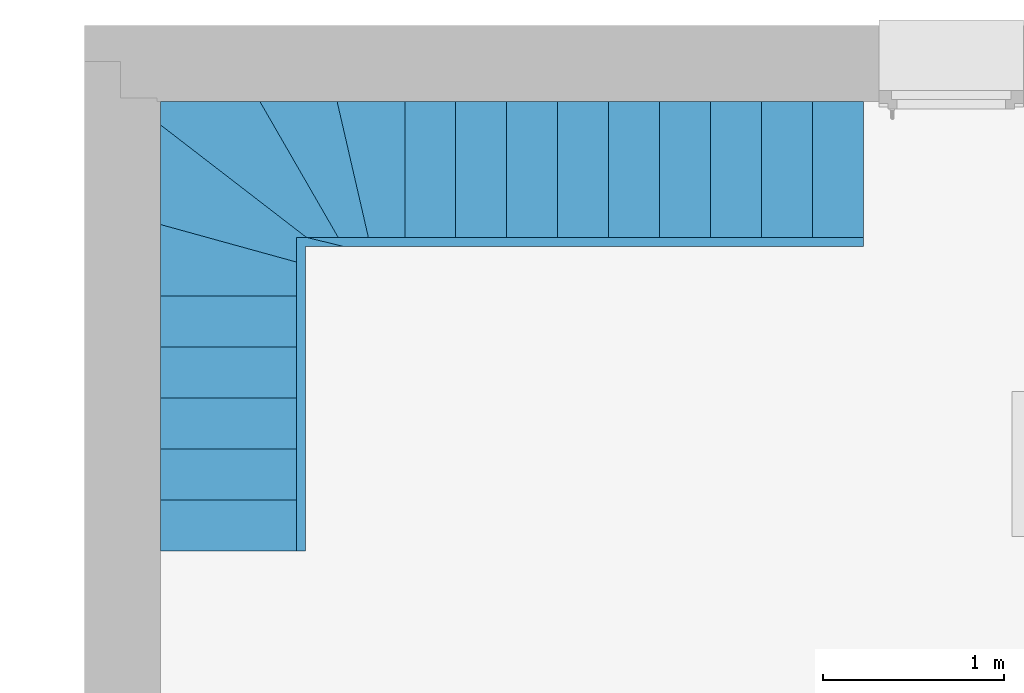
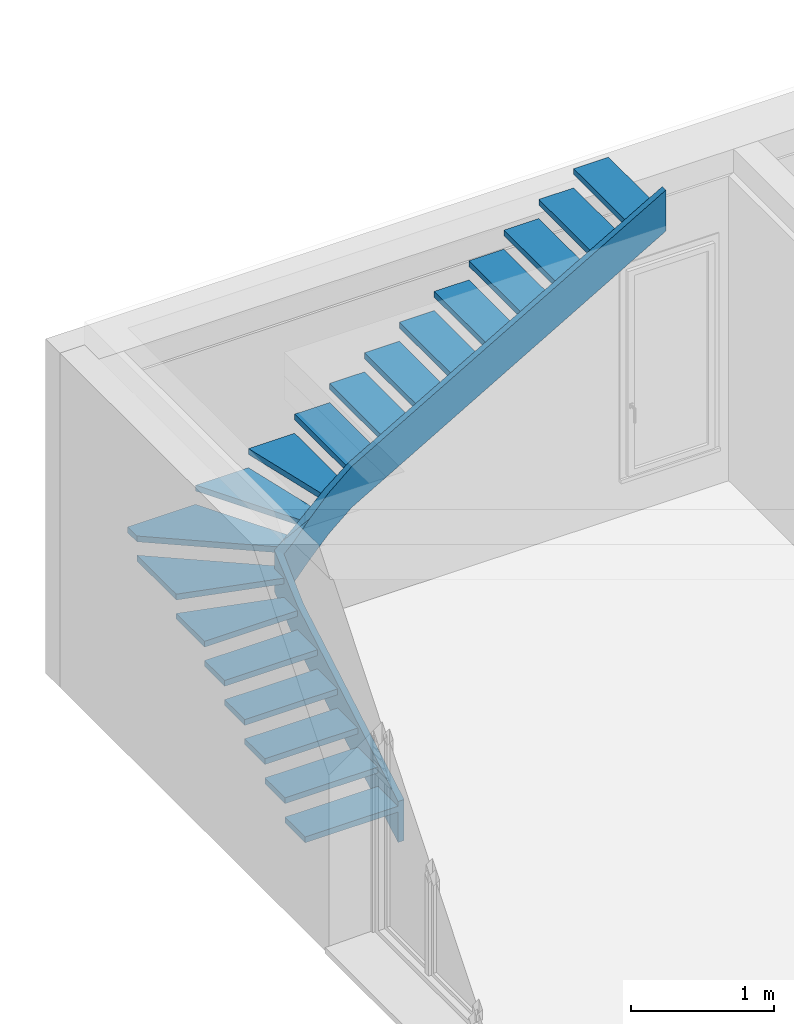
# One storey, part 16 of 16: 1 stair.
"""IFC4 building model written with IfcOpenShell, lengths in metres."""

from ifc_helpers import new_model, entity, si_unit, converted_unit, frame, origin, place, context, subcontext, project, spatial, faceted_brep, material, element, save


model = new_model("IFC4")

# Units and contexts
model_context = context("Model", 3, precision=1e-05, world=origin())
body_context = subcontext(model_context, "Body", "Model", "MODEL_VIEW")
ifc_project = project(units=[si_unit("LENGTHUNIT", "METRE"), si_unit("AREAUNIT", "SQUARE_METRE"), si_unit("VOLUMEUNIT", "CUBIC_METRE"), si_unit("MASSUNIT", "GRAM", prefix="KILO"), converted_unit("PLANEANGLEUNIT", "DEGREE", entity("IfcPlaneAngleMeasure", 0.0174532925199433), si_unit("PLANEANGLEUNIT", "RADIAN"), dimensions=[0, 0, 0, 0, 0, 0, 0])], contexts=[model_context])

# Building, storey
building_placement = place(None, origin())
building = spatial("IfcBuilding", under=ifc_project, at=building_placement, Name="Projet de Construction", CompositionType="ELEMENT")
storey_placement = place(building_placement, frame((0.0, 0.0, -0.05)))
storey = spatial("IfcBuildingStorey", under=building, at=storey_placement, Name="RDC", CompositionType="ELEMENT", Elevation=-0.05)

# Stair
ifc_material = material(Name="Escalier à un quartier tournant")
stair_placement = place(storey_placement, frame((-6.8659375, 5.23979166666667, -0.0968421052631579)))
element("IfcStair", 1, at=stair_placement, inside=storey, material=ifc_material, PredefinedType="NOTDEFINED", context=body_context, shape_type="Brep", body=[
    faceted_brep([(3.59866325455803, 2.48000000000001, 3.19684210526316), (3.59866325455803, 1.68, 3.19684210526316), (3.88, 1.68, 3.19684210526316), (3.88, 2.48000000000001, 3.19684210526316), (3.59866325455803, 1.68, 3.24684210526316), (3.59866325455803, 2.48000000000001, 3.24684210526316), (3.88, 2.48000000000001, 3.24684210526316), (3.88, 1.68, 3.24684210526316)], [[[0, 1, 2, 3]], [[4, 5, 6, 7]], [[1, 0, 5, 4]], [[2, 1, 4, 7]], [[3, 2, 7, 6]], [[0, 3, 6, 5]]], orient=[[False], [False], [False], [False], [False], [False]]),
    faceted_brep([(3.31732650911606, 2.48000000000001, 3.03368421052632), (3.31732650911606, 1.68000000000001, 3.03368421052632), (3.59866325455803, 1.68, 3.03368421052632), (3.59866325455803, 2.48000000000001, 3.03368421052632), (3.31732650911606, 1.68000000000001, 3.08368421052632), (3.31732650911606, 2.48000000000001, 3.08368421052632), (3.59866325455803, 2.48000000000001, 3.08368421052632), (3.59866325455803, 1.68, 3.08368421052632)], [[[0, 1, 2, 3]], [[4, 5, 6, 7]], [[1, 0, 5, 4]], [[2, 1, 4, 7]], [[3, 2, 7, 6]], [[0, 3, 6, 5]]], orient=[[False], [False], [False], [False], [False], [False]]),
    faceted_brep([(3.03598976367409, 2.48000000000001, 2.87052631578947), (3.03598976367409, 1.68000000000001, 2.87052631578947), (3.31732650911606, 1.68000000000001, 2.87052631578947), (3.31732650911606, 2.48000000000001, 2.87052631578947), (3.03598976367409, 1.68000000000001, 2.92052631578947), (3.03598976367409, 2.48000000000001, 2.92052631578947), (3.31732650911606, 2.48000000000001, 2.92052631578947), (3.31732650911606, 1.68000000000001, 2.92052631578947)], [[[0, 1, 2, 3]], [[4, 5, 6, 7]], [[1, 0, 5, 4]], [[2, 1, 4, 7]], [[3, 2, 7, 6]], [[0, 3, 6, 5]]], orient=[[False], [False], [False], [False], [False], [False]]),
    faceted_brep([(2.75465301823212, 2.48, 2.70736842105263), (2.75465301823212, 1.68000000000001, 2.70736842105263), (3.03598976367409, 1.68000000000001, 2.70736842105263), (3.03598976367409, 2.48000000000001, 2.70736842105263), (2.75465301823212, 1.68000000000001, 2.75736842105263), (2.75465301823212, 2.48, 2.75736842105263), (3.03598976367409, 2.48000000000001, 2.75736842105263), (3.03598976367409, 1.68000000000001, 2.75736842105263)], [[[0, 1, 2, 3]], [[4, 5, 6, 7]], [[1, 0, 5, 4]], [[2, 1, 4, 7]], [[3, 2, 7, 6]], [[0, 3, 6, 5]]], orient=[[False], [False], [False], [False], [False], [False]]),
    faceted_brep([(2.47331627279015, 2.48, 2.54421052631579), (2.47331627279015, 1.68000000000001, 2.54421052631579), (2.75465301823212, 1.68000000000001, 2.54421052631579), (2.75465301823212, 2.48, 2.54421052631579), (2.47331627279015, 1.68000000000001, 2.59421052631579), (2.47331627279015, 2.48, 2.59421052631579), (2.75465301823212, 2.48, 2.59421052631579), (2.75465301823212, 1.68000000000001, 2.59421052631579)], [[[0, 1, 2, 3]], [[4, 5, 6, 7]], [[1, 0, 5, 4]], [[2, 1, 4, 7]], [[3, 2, 7, 6]], [[0, 3, 6, 5]]], orient=[[False], [False], [False], [False], [False], [False]]),
    faceted_brep([(2.19197952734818, 2.48, 2.38105263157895), (2.19197952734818, 1.68000000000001, 2.38105263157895), (2.47331627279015, 1.68000000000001, 2.38105263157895), (2.47331627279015, 2.48, 2.38105263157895), (2.19197952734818, 1.68000000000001, 2.43105263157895), (2.19197952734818, 2.48, 2.43105263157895), (2.47331627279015, 2.48, 2.43105263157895), (2.47331627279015, 1.68000000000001, 2.43105263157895)], [[[0, 1, 2, 3]], [[4, 5, 6, 7]], [[1, 0, 5, 4]], [[2, 1, 4, 7]], [[3, 2, 7, 6]], [[0, 3, 6, 5]]], orient=[[False], [False], [False], [False], [False], [False]]),
    faceted_brep([(1.9106427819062, 2.48, 2.21789473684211), (1.9106427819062, 1.68000000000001, 2.21789473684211), (2.19197952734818, 1.68000000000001, 2.21789473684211), (2.19197952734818, 2.48, 2.21789473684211), (1.9106427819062, 1.68000000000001, 2.26789473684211), (1.9106427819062, 2.48, 2.26789473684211), (2.19197952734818, 2.48, 2.26789473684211), (2.19197952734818, 1.68000000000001, 2.26789473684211)], [[[0, 1, 2, 3]], [[4, 5, 6, 7]], [[1, 0, 5, 4]], [[2, 1, 4, 7]], [[3, 2, 7, 6]], [[0, 3, 6, 5]]], orient=[[False], [False], [False], [False], [False], [False]]),
    faceted_brep([(1.62930603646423, 2.48, 2.05473684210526), (1.62930603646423, 1.68000000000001, 2.05473684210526), (1.9106427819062, 1.68000000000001, 2.05473684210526), (1.9106427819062, 2.48, 2.05473684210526), (1.62930603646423, 1.68000000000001, 2.10473684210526), (1.62930603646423, 2.48, 2.10473684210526), (1.9106427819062, 2.48, 2.10473684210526), (1.9106427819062, 1.68000000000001, 2.10473684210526)], [[[0, 1, 2, 3]], [[4, 5, 6, 7]], [[1, 0, 5, 4]], [[2, 1, 4, 7]], [[3, 2, 7, 6]], [[0, 3, 6, 5]]], orient=[[False], [False], [False], [False], [False], [False]]),
    faceted_brep([(1.34796929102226, 2.48, 1.89157894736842), (1.34796929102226, 1.68000000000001, 1.89157894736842), (1.62930603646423, 1.68000000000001, 1.89157894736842), (1.62930603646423, 2.48, 1.89157894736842), (1.34796929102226, 1.68000000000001, 1.94157894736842), (1.34796929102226, 2.48, 1.94157894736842), (1.62930603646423, 2.48, 1.94157894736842), (1.62930603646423, 1.68000000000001, 1.94157894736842)], [[[0, 1, 2, 3]], [[4, 5, 6, 7]], [[1, 0, 5, 4]], [[2, 1, 4, 7]], [[3, 2, 7, 6]], [[0, 3, 6, 5]]], orient=[[False], [False], [False], [False], [False], [False]]),
    faceted_brep([(0.974558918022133, 2.48, 1.72842105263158), (1.15870617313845, 1.68000000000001, 1.72842105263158), (1.34796929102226, 1.68000000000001, 1.72842105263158), (1.34796929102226, 2.48, 1.72842105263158), (1.15870617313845, 1.68000000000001, 1.77842105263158), (0.974558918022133, 2.48, 1.77842105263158), (1.34796929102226, 2.48, 1.77842105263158), (1.34796929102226, 1.68000000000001, 1.77842105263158)], [[[0, 1, 2, 3]], [[4, 5, 6, 7]], [[1, 0, 5, 4]], [[2, 1, 4, 7]], [[3, 2, 7, 6]], [[0, 3, 6, 5]]], orient=[[False], [False], [False], [False], [False], [False]]),
    faceted_brep([(0.54821934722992, 2.48, 1.56526315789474), (1.00928008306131, 1.68000000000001, 1.56526315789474), (1.15870617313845, 1.68000000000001, 1.56526315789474), (0.974558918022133, 2.48, 1.56526315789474), (1.00928008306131, 1.68000000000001, 1.61526315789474), (0.54821934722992, 2.48, 1.61526315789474), (0.974558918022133, 2.48, 1.61526315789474), (1.15870617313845, 1.68000000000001, 1.61526315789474)], [[[0, 1, 2, 3]], [[4, 5, 6, 7]], [[1, 0, 5, 4]], [[2, 1, 4, 7]], [[3, 2, 7, 6]], [[0, 3, 6, 5]]], orient=[[False], [False], [False], [False], [False], [False]]),
    faceted_brep([(5.45696821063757e-15, 2.35052168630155, 1.40210526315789), (0.869999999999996, 1.68, 1.40210526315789), (1.00928008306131, 1.68000000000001, 1.40210526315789), (0.54821934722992, 2.48, 1.40210526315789), (2.72848410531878e-15, 2.48, 1.40210526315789), (0.869999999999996, 1.68, 1.45210526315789), (5.45696821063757e-15, 2.35052168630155, 1.45210526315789), (2.72848410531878e-15, 2.48, 1.45210526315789), (0.54821934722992, 2.48, 1.45210526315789), (1.00928008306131, 1.68000000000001, 1.45210526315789)], [[[0, 1, 2, 3, 4]], [[5, 6, 7, 8, 9]], [[1, 0, 6, 5]], [[2, 1, 5, 9]], [[3, 2, 9, 8]], [[4, 3, 8, 7]], [[0, 4, 7, 6]]], orient=[[False], [False], [False], [False], [False], [False], [False]]),
    faceted_brep([(2.72848410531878e-15, 1.80077965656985, 1.23894736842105), (0.800000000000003, 1.58, 1.23894736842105), (0.800000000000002, 1.68, 1.23894736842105), (0.869999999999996, 1.68, 1.23894736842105), (5.45696821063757e-15, 2.35052168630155, 1.23894736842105), (0.800000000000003, 1.58, 1.28894736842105), (2.72848410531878e-15, 1.80077965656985, 1.28894736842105), (5.45696821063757e-15, 2.35052168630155, 1.28894736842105), (0.869999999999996, 1.68, 1.28894736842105), (0.800000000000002, 1.68, 1.28894736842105)], [[[0, 1, 2, 3, 4]], [[5, 6, 7, 8, 9]], [[1, 0, 6, 5]], [[2, 1, 5, 9]], [[3, 2, 9, 8]], [[4, 3, 8, 7]], [[0, 4, 7, 6]]], orient=[[False], [False], [False], [False], [False], [False], [False]]),
    faceted_brep([(2.72848410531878e-15, 1.40668372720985, 1.07578947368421), (0.800000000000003, 1.40668372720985, 1.07578947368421), (0.800000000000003, 1.58, 1.07578947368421), (2.72848410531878e-15, 1.80077965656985, 1.07578947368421), (0.800000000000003, 1.40668372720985, 1.12578947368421), (2.72848410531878e-15, 1.40668372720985, 1.12578947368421), (2.72848410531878e-15, 1.80077965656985, 1.12578947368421), (0.800000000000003, 1.58, 1.12578947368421)], [[[0, 1, 2, 3]], [[4, 5, 6, 7]], [[1, 0, 5, 4]], [[2, 1, 4, 7]], [[3, 2, 7, 6]], [[0, 3, 6, 5]]], orient=[[False], [False], [False], [False], [False], [False]]),
    faceted_brep([(2.72848410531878e-15, 1.12534698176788, 0.912631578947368), (0.800000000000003, 1.12534698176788, 0.912631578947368), (0.800000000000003, 1.40668372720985, 0.912631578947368), (2.72848410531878e-15, 1.40668372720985, 0.912631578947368), (0.800000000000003, 1.12534698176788, 0.962631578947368), (2.72848410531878e-15, 1.12534698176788, 0.962631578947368), (2.72848410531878e-15, 1.40668372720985, 0.962631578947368), (0.800000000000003, 1.40668372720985, 0.962631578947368)], [[[0, 1, 2, 3]], [[4, 5, 6, 7]], [[1, 0, 5, 4]], [[2, 1, 4, 7]], [[3, 2, 7, 6]], [[0, 3, 6, 5]]], orient=[[False], [False], [False], [False], [False], [False]]),
    faceted_brep([(2.72848410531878e-15, 0.844010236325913, 0.749473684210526), (0.800000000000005, 0.844010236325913, 0.749473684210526), (0.800000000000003, 1.12534698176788, 0.749473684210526), (2.72848410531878e-15, 1.12534698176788, 0.749473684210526), (0.800000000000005, 0.844010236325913, 0.799473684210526), (2.72848410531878e-15, 0.844010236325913, 0.799473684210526), (2.72848410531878e-15, 1.12534698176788, 0.799473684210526), (0.800000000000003, 1.12534698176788, 0.799473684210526)], [[[0, 1, 2, 3]], [[4, 5, 6, 7]], [[1, 0, 5, 4]], [[2, 1, 4, 7]], [[3, 2, 7, 6]], [[0, 3, 6, 5]]], orient=[[False], [False], [False], [False], [False], [False]]),
    faceted_brep([(1.81898940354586e-15, 0.562673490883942, 0.586315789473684), (0.800000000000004, 0.562673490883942, 0.586315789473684), (0.800000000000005, 0.844010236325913, 0.586315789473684), (2.72848410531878e-15, 0.844010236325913, 0.586315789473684), (0.800000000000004, 0.562673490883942, 0.636315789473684), (1.81898940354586e-15, 0.562673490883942, 0.636315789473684), (2.72848410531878e-15, 0.844010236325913, 0.636315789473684), (0.800000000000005, 0.844010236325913, 0.636315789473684)], [[[0, 1, 2, 3]], [[4, 5, 6, 7]], [[1, 0, 5, 4]], [[2, 1, 4, 7]], [[3, 2, 7, 6]], [[0, 3, 6, 5]]], orient=[[False], [False], [False], [False], [False], [False]]),
    faceted_brep([(0.0, 0.281336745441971, 0.423157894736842), (0.800000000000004, 0.281336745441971, 0.423157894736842), (0.800000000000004, 0.562673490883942, 0.423157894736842), (1.81898940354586e-15, 0.562673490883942, 0.423157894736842), (0.800000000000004, 0.281336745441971, 0.473157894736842), (0.0, 0.281336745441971, 0.473157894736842), (1.81898940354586e-15, 0.562673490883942, 0.473157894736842), (0.800000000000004, 0.562673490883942, 0.473157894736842)], [[[0, 1, 2, 3]], [[4, 5, 6, 7]], [[1, 0, 5, 4]], [[2, 1, 4, 7]], [[3, 2, 7, 6]], [[0, 3, 6, 5]]], orient=[[False], [False], [False], [False], [False], [False]]),
    faceted_brep([(1.81898940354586e-15, 0.0, 0.26), (0.800000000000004, 0.0, 0.26), (0.800000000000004, 0.281336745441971, 0.26), (0.0, 0.281336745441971, 0.26), (0.800000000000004, 0.0, 0.31), (1.81898940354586e-15, 0.0, 0.31), (0.0, 0.281336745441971, 0.31), (0.800000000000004, 0.281336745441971, 0.31)], [[[0, 1, 2, 3]], [[4, 5, 6, 7]], [[1, 0, 5, 4]], [[2, 1, 4, 7]], [[3, 2, 7, 6]], [[0, 3, 6, 5]]], orient=[[False], [False], [False], [False], [False], [False]]),
    faceted_brep([(3.59866325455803, 1.68, 2.93684210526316), (3.88, 1.68, 3.1), (3.88, 1.73, 3.1), (3.59866325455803, 1.73, 2.93684210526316), (3.59866325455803, 1.68, 3.28684210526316), (3.59866325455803, 1.73, 3.28684210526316), (3.88, 1.73, 3.45), (3.88, 1.68, 3.45)], [[[0, 1, 2, 3]], [[4, 5, 6, 7]], [[3, 5, 4, 0]], [[0, 4, 7, 1]], [[1, 7, 6, 2]], [[2, 6, 5, 3]]], orient=[[False], [False], [False], [False], [False], [False]]),
    faceted_brep([(3.31732650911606, 1.68000000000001, 2.77368421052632), (3.59866325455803, 1.68, 2.93684210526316), (3.59866325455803, 1.73, 2.93684210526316), (3.31732650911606, 1.73, 2.77368421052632), (3.31732650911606, 1.68000000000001, 3.12368421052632), (3.31732650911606, 1.73, 3.12368421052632), (3.59866325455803, 1.73, 3.28684210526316), (3.59866325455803, 1.68, 3.28684210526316)], [[[0, 1, 2, 3]], [[4, 5, 6, 7]], [[3, 5, 4, 0]], [[0, 4, 7, 1]], [[1, 7, 6, 2]], [[2, 6, 5, 3]]], orient=[[False], [False], [False], [False], [False], [False]]),
    faceted_brep([(3.03598976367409, 1.68000000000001, 2.61052631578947), (3.31732650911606, 1.68000000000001, 2.77368421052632), (3.31732650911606, 1.73, 2.77368421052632), (3.03598976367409, 1.73, 2.61052631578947), (3.03598976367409, 1.68000000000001, 2.96052631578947), (3.03598976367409, 1.73, 2.96052631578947), (3.31732650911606, 1.73, 3.12368421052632), (3.31732650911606, 1.68000000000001, 3.12368421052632)], [[[0, 1, 2, 3]], [[4, 5, 6, 7]], [[3, 5, 4, 0]], [[0, 4, 7, 1]], [[1, 7, 6, 2]], [[2, 6, 5, 3]]], orient=[[False], [False], [False], [False], [False], [False]]),
    faceted_brep([(2.75465301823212, 1.68000000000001, 2.44736842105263), (3.03598976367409, 1.68000000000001, 2.61052631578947), (3.03598976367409, 1.73, 2.61052631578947), (2.75465301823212, 1.73, 2.44736842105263), (2.75465301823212, 1.68000000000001, 2.79736842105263), (2.75465301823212, 1.73, 2.79736842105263), (3.03598976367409, 1.73, 2.96052631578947), (3.03598976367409, 1.68000000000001, 2.96052631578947)], [[[0, 1, 2, 3]], [[4, 5, 6, 7]], [[3, 5, 4, 0]], [[0, 4, 7, 1]], [[1, 7, 6, 2]], [[2, 6, 5, 3]]], orient=[[False], [False], [False], [False], [False], [False]]),
    faceted_brep([(2.47331627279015, 1.68000000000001, 2.28421052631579), (2.75465301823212, 1.68000000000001, 2.44736842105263), (2.75465301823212, 1.73, 2.44736842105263), (2.47331627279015, 1.73, 2.28421052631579), (2.47331627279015, 1.68000000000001, 2.63421052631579), (2.47331627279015, 1.73, 2.63421052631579), (2.75465301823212, 1.73, 2.79736842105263), (2.75465301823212, 1.68000000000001, 2.79736842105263)], [[[0, 1, 2, 3]], [[4, 5, 6, 7]], [[3, 5, 4, 0]], [[0, 4, 7, 1]], [[1, 7, 6, 2]], [[2, 6, 5, 3]]], orient=[[False], [False], [False], [False], [False], [False]]),
    faceted_brep([(2.19197952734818, 1.68000000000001, 2.12105263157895), (2.47331627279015, 1.68000000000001, 2.28421052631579), (2.47331627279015, 1.73, 2.28421052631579), (2.19197952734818, 1.73, 2.12105263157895), (2.19197952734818, 1.68000000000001, 2.47105263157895), (2.19197952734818, 1.73, 2.47105263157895), (2.47331627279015, 1.73, 2.63421052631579), (2.47331627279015, 1.68000000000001, 2.63421052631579)], [[[0, 1, 2, 3]], [[4, 5, 6, 7]], [[3, 5, 4, 0]], [[0, 4, 7, 1]], [[1, 7, 6, 2]], [[2, 6, 5, 3]]], orient=[[False], [False], [False], [False], [False], [False]]),
    faceted_brep([(1.9106427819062, 1.68000000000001, 1.95789473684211), (2.19197952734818, 1.68000000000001, 2.12105263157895), (2.19197952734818, 1.73, 2.12105263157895), (1.9106427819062, 1.73, 1.95789473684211), (1.9106427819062, 1.68000000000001, 2.30789473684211), (1.9106427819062, 1.73, 2.30789473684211), (2.19197952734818, 1.73, 2.47105263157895), (2.19197952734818, 1.68000000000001, 2.47105263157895)], [[[0, 1, 2, 3]], [[4, 5, 6, 7]], [[3, 5, 4, 0]], [[0, 4, 7, 1]], [[1, 7, 6, 2]], [[2, 6, 5, 3]]], orient=[[False], [False], [False], [False], [False], [False]]),
    faceted_brep([(1.62930603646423, 1.68000000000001, 1.79473684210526), (1.9106427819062, 1.68000000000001, 1.95789473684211), (1.9106427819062, 1.73, 1.95789473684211), (1.62930603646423, 1.73, 1.79473684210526), (1.62930603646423, 1.68000000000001, 2.14473684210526), (1.62930603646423, 1.73, 2.14473684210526), (1.9106427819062, 1.73, 2.30789473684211), (1.9106427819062, 1.68000000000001, 2.30789473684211)], [[[0, 1, 2, 3]], [[4, 5, 6, 7]], [[3, 5, 4, 0]], [[0, 4, 7, 1]], [[1, 7, 6, 2]], [[2, 6, 5, 3]]], orient=[[False], [False], [False], [False], [False], [False]]),
    faceted_brep([(1.34796929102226, 1.68000000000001, 1.63157894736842), (1.62930603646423, 1.68000000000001, 1.79473684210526), (1.62930603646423, 1.73, 1.79473684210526), (1.34796929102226, 1.73, 1.63157894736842), (1.34796929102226, 1.68000000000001, 1.98157894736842), (1.34796929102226, 1.73, 1.98157894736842), (1.62930603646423, 1.73, 2.14473684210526), (1.62930603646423, 1.68000000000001, 2.14473684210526)], [[[0, 1, 2, 3]], [[4, 5, 6, 7]], [[3, 5, 4, 0]], [[0, 4, 7, 1]], [[1, 7, 6, 2]], [[2, 6, 5, 3]]], orient=[[False], [False], [False], [False], [False], [False]]),
    faceted_brep([(1.15870617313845, 1.68000000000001, 1.46842105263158), (1.34796929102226, 1.68000000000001, 1.63157894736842), (1.14719696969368, 1.73, 1.46842105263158), (1.34796929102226, 1.73, 1.63157894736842), (1.15870617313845, 1.68000000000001, 1.81842105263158), (1.14719696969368, 1.73, 1.81842105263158), (1.34796929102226, 1.68000000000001, 1.98157894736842), (1.34796929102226, 1.73, 1.98157894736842)], [[[0, 1, 2]], [[1, 3, 2]], [[4, 5, 6]], [[5, 7, 6]], [[2, 5, 4, 0]], [[0, 4, 6, 1]], [[1, 6, 7, 3]], [[3, 7, 5, 2]]], orient=[[False], [False], [False], [False], [False], [False], [False], [False]]),
    faceted_brep([(1.00928008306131, 1.68000000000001, 1.30526315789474), (1.15870617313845, 1.68000000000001, 1.46842105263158), (0.980463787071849, 1.73, 1.30526315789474), (1.14719696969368, 1.73, 1.46842105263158), (1.00928008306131, 1.68000000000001, 1.65526315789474), (0.980463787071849, 1.73, 1.65526315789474), (1.15870617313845, 1.68000000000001, 1.81842105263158), (1.14719696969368, 1.73, 1.81842105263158)], [[[0, 1, 2]], [[1, 3, 2]], [[4, 5, 6]], [[5, 7, 6]], [[2, 5, 4, 0]], [[0, 4, 6, 1]], [[1, 6, 7, 3]], [[3, 7, 5, 2]]], orient=[[False], [False], [False], [False], [False], [False], [False], [False]]),
    faceted_brep([(0.869999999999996, 1.68, 1.14210526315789), (1.00928008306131, 1.68000000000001, 1.30526315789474), (0.805125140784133, 1.73, 1.14210526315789), (0.980463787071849, 1.73, 1.30526315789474), (0.869999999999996, 1.68, 1.49210526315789), (0.805125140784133, 1.73, 1.49210526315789), (1.00928008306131, 1.68000000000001, 1.65526315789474), (0.980463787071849, 1.73, 1.65526315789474)], [[[0, 1, 2]], [[1, 3, 2]], [[4, 5, 6]], [[5, 7, 6]], [[2, 5, 4, 0]], [[0, 4, 6, 1]], [[1, 6, 7, 3]], [[3, 7, 5, 2]]], orient=[[False], [False], [False], [False], [False], [False], [False], [False]]),
    faceted_brep([(0.800000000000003, 1.58, 0.978947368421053), (0.800000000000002, 1.68, 1.0749226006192), (0.750000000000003, 1.59379872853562, 0.978947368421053), (0.750000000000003, 1.73, 1.09509606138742), (0.869999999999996, 1.68, 1.14210526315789), (0.805125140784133, 1.73, 1.14210526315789), (0.800000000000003, 1.58, 1.32894736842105), (0.750000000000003, 1.59379872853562, 1.32894736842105), (0.800000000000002, 1.68, 1.4249226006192), (0.750000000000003, 1.73, 1.44509606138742), (0.869999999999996, 1.68, 1.49210526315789), (0.805125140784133, 1.73, 1.49210526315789)], [[[0, 1, 2]], [[1, 3, 2]], [[1, 4, 3]], [[4, 5, 3]], [[6, 7, 8]], [[7, 9, 8]], [[8, 9, 10]], [[9, 11, 10]], [[2, 7, 6, 0]], [[0, 6, 8, 1]], [[1, 8, 10, 4]], [[4, 10, 11, 5]], [[5, 11, 9, 3]], [[3, 9, 7, 2]]], orient=[[False], [False], [False], [False], [False], [False], [False], [False], [False], [False], [False], [False], [False], [False]]),
    faceted_brep([(0.800000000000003, 1.40668372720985, 0.81578947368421), (0.800000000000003, 1.58, 0.978947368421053), (0.750000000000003, 1.40668372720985, 0.81578947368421), (0.750000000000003, 1.59379872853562, 0.978947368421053), (0.800000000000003, 1.40668372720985, 1.16578947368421), (0.750000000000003, 1.40668372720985, 1.16578947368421), (0.800000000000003, 1.58, 1.32894736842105), (0.750000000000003, 1.59379872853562, 1.32894736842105)], [[[0, 1, 2]], [[1, 3, 2]], [[4, 5, 6]], [[5, 7, 6]], [[2, 5, 4, 0]], [[0, 4, 6, 1]], [[1, 6, 7, 3]], [[3, 7, 5, 2]]], orient=[[False], [False], [False], [False], [False], [False], [False], [False]]),
    faceted_brep([(0.800000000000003, 1.12534698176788, 0.652631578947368), (0.800000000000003, 1.40668372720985, 0.81578947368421), (0.750000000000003, 1.40668372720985, 0.81578947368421), (0.750000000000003, 1.12534698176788, 0.652631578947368), (0.800000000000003, 1.12534698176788, 1.00263157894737), (0.750000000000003, 1.12534698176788, 1.00263157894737), (0.750000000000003, 1.40668372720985, 1.16578947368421), (0.800000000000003, 1.40668372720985, 1.16578947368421)], [[[0, 1, 2, 3]], [[4, 5, 6, 7]], [[3, 5, 4, 0]], [[0, 4, 7, 1]], [[1, 7, 6, 2]], [[2, 6, 5, 3]]], orient=[[False], [False], [False], [False], [False], [False]]),
    faceted_brep([(0.800000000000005, 0.844010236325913, 0.489473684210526), (0.800000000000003, 1.12534698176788, 0.652631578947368), (0.750000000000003, 1.12534698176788, 0.652631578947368), (0.750000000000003, 0.844010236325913, 0.489473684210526), (0.800000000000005, 0.844010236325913, 0.839473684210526), (0.750000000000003, 0.844010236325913, 0.839473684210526), (0.750000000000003, 1.12534698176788, 1.00263157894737), (0.800000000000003, 1.12534698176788, 1.00263157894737)], [[[0, 1, 2, 3]], [[4, 5, 6, 7]], [[3, 5, 4, 0]], [[0, 4, 7, 1]], [[1, 7, 6, 2]], [[2, 6, 5, 3]]], orient=[[False], [False], [False], [False], [False], [False]]),
    faceted_brep([(0.800000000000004, 0.562673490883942, 0.326315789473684), (0.800000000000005, 0.844010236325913, 0.489473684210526), (0.750000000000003, 0.844010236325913, 0.489473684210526), (0.750000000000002, 0.562673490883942, 0.326315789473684), (0.800000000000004, 0.562673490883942, 0.676315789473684), (0.750000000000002, 0.562673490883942, 0.676315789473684), (0.750000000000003, 0.844010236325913, 0.839473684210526), (0.800000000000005, 0.844010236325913, 0.839473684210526)], [[[0, 1, 2, 3]], [[4, 5, 6, 7]], [[3, 5, 4, 0]], [[0, 4, 7, 1]], [[1, 7, 6, 2]], [[2, 6, 5, 3]]], orient=[[False], [False], [False], [False], [False], [False]]),
    faceted_brep([(0.800000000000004, 0.281336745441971, 0.163157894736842), (0.800000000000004, 0.562673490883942, 0.326315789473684), (0.750000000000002, 0.562673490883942, 0.326315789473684), (0.750000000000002, 0.281336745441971, 0.163157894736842), (0.800000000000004, 0.281336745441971, 0.513157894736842), (0.750000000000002, 0.281336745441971, 0.513157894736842), (0.750000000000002, 0.562673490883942, 0.676315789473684), (0.800000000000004, 0.562673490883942, 0.676315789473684)], [[[0, 1, 2, 3]], [[4, 5, 6, 7]], [[3, 5, 4, 0]], [[0, 4, 7, 1]], [[1, 7, 6, 2]], [[2, 6, 5, 3]]], orient=[[False], [False], [False], [False], [False], [False]]),
    faceted_brep([(0.800000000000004, 0.0, -2.8421709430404e-17), (0.800000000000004, 0.281336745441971, 0.163157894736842), (0.750000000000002, 0.281336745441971, 0.163157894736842), (0.750000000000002, 0.0, -2.8421709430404e-17), (0.800000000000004, 0.0, 0.35), (0.750000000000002, 0.0, 0.35), (0.750000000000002, 0.281336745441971, 0.513157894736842), (0.800000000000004, 0.281336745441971, 0.513157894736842)], [[[0, 1, 2, 3]], [[4, 5, 6, 7]], [[3, 5, 4, 0]], [[0, 4, 7, 1]], [[1, 7, 6, 2]], [[2, 6, 5, 3]]], orient=[[False], [False], [False], [False], [False], [False]]),
])

save(model, "model.ifc")
